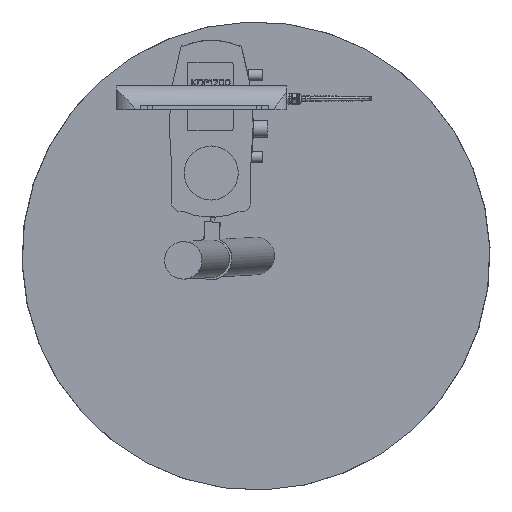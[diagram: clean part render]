
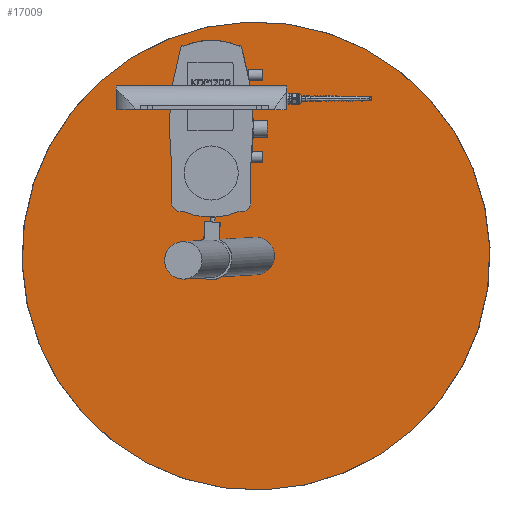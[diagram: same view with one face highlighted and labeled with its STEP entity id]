
A CAD part, left-side view. The second image highlights one B-rep face of the part: STEP entity #17009.
In plain terms, the highlighted planar face has unit normal (-1, 0.028, -0.002) as drawn and (0, 0, -1) by its records, which use the part's own axes.
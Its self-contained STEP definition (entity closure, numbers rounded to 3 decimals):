
#16920=CARTESIAN_POINT('',(0.,0.,0.));
#16921=DIRECTION('',(0.,0.,1.));
#16922=DIRECTION('',(1.,0.,0.));
#16923=AXIS2_PLACEMENT_3D('',#16920,#16921,#16922);
#16925=CARTESIAN_POINT('',(0.,0.,0.));
#16926=DIRECTION('',(0.,0.,1.));
#16927=DIRECTION('',(-1.,0.,0.));
#16928=AXIS2_PLACEMENT_3D('',#16925,#16926,#16927);
#16930=CARTESIAN_POINT('',(0.,0.,0.));
#16931=DIRECTION('',(0.,0.,1.));
#16932=DIRECTION('',(1.,0.,0.));
#16933=AXIS2_PLACEMENT_3D('',#16930,#16931,#16932);
#16935=CARTESIAN_POINT('',(0.,0.,0.));
#16936=DIRECTION('',(0.,0.,1.));
#16937=DIRECTION('',(-1.,0.,0.));
#16938=AXIS2_PLACEMENT_3D('',#16935,#16936,#16937);
#16976=CARTESIAN_POINT('',(250.,0.,0.));
#16977=CARTESIAN_POINT('',(-250.,0.,0.));
#16978=VERTEX_POINT('',#16976);
#16979=VERTEX_POINT('',#16977);
#16988=CARTESIAN_POINT('',(20.,0.,0.));
#16989=VERTEX_POINT('',#16988);
#16990=CARTESIAN_POINT('',(-20.,0.,0.));
#16991=VERTEX_POINT('',#16990);
#16992=CARTESIAN_POINT('',(0.,0.,0.));
#16993=DIRECTION('',(0.,0.,1.));
#16994=DIRECTION('',(1.,0.,0.));
#16995=AXIS2_PLACEMENT_3D('',#16992,#16993,#16994);
#16996=PLANE('',#16995);
#16998=ORIENTED_EDGE('',*,*,#16997,.T.);
#17000=ORIENTED_EDGE('',*,*,#16999,.T.);
#17001=EDGE_LOOP('',(#16998,#17000));
#17002=FACE_OUTER_BOUND('',#17001,.F.);
#17004=ORIENTED_EDGE('',*,*,#17003,.F.);
#17006=ORIENTED_EDGE('',*,*,#17005,.F.);
#17007=EDGE_LOOP('',(#17004,#17006));
#17008=FACE_BOUND('',#17007,.F.);
#17009=ADVANCED_FACE('',(#17002,#17008),#16996,.F.);
#16924=CIRCLE('',#16923,250.);
#16929=CIRCLE('',#16928,250.);
#16934=CIRCLE('',#16933,20.);
#16939=CIRCLE('',#16938,20.);
#16997=EDGE_CURVE('',#16978,#16979,#16924,.T.);
#16999=EDGE_CURVE('',#16979,#16978,#16929,.T.);
#17003=EDGE_CURVE('',#16989,#16991,#16934,.T.);
#17005=EDGE_CURVE('',#16991,#16989,#16939,.T.);
